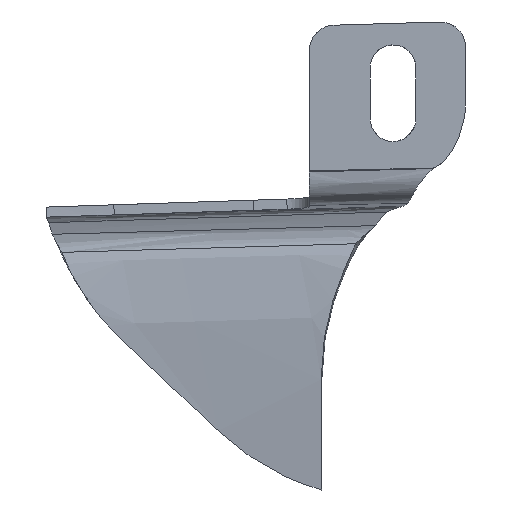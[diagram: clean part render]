
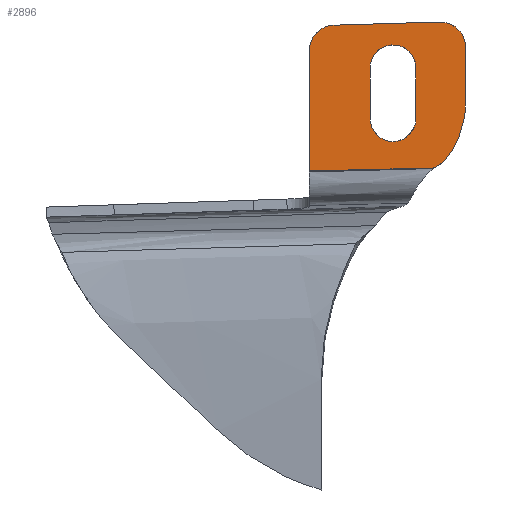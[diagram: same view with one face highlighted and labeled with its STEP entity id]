
A CAD part, front view. The second image highlights one B-rep face of the part: STEP entity #2896.
In plain terms, the highlighted planar face has unit normal (0, -1, 0).
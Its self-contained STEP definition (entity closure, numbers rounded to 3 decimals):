
#2599=CARTESIAN_POINT('Vertex',(-1773.519,267.045,515.227)) ;
#2629=CARTESIAN_POINT('Vertex',(-1748.957,267.047,515.809)) ;
#2633=CARTESIAN_POINT('Control Point',(-1773.519,267.045,515.227)) ;
#2634=CARTESIAN_POINT('Control Point',(-1772.667,267.045,515.247)) ;
#2635=CARTESIAN_POINT('Control Point',(-1771.814,267.045,515.267)) ;
#2636=CARTESIAN_POINT('Control Point',(-1770.898,267.045,515.289)) ;
#2637=CARTESIAN_POINT('Control Point',(-1769.776,267.045,515.316)) ;
#2638=CARTESIAN_POINT('Control Point',(-1768.659,267.045,515.342)) ;
#2639=CARTESIAN_POINT('Control Point',(-1768.321,267.045,515.35)) ;
#2640=CARTESIAN_POINT('Control Point',(-1767.091,267.045,515.38)) ;
#2641=CARTESIAN_POINT('Control Point',(-1765.832,267.045,515.41)) ;
#2642=CARTESIAN_POINT('Control Point',(-1764.827,267.046,515.433)) ;
#2643=CARTESIAN_POINT('Control Point',(-1762.678,267.046,515.484)) ;
#2644=CARTESIAN_POINT('Control Point',(-1760.662,267.046,515.532)) ;
#2645=CARTESIAN_POINT('Control Point',(-1759.61,267.046,515.557)) ;
#2646=CARTESIAN_POINT('Control Point',(-1757.813,267.046,515.6)) ;
#2647=CARTESIAN_POINT('Control Point',(-1756.149,267.046,515.639)) ;
#2648=CARTESIAN_POINT('Control Point',(-1755.41,267.047,515.657)) ;
#2649=CARTESIAN_POINT('Control Point',(-1753.81,267.047,515.694)) ;
#2650=CARTESIAN_POINT('Control Point',(-1752.056,267.047,515.736)) ;
#2651=CARTESIAN_POINT('Control Point',(-1751.075,267.047,515.759)) ;
#2652=CARTESIAN_POINT('Control Point',(-1750.037,267.047,515.783)) ;
#2653=CARTESIAN_POINT('Control Point',(-1748.957,267.047,515.809)) ;
#2702=CARTESIAN_POINT('Vertex',(-1747.068,267.047,517.022)) ;
#2706=CARTESIAN_POINT('Control Point',(-1748.957,267.047,515.809)) ;
#2707=CARTESIAN_POINT('Control Point',(-1748.337,267.047,516.227)) ;
#2708=CARTESIAN_POINT('Control Point',(-1747.707,267.047,516.632)) ;
#2709=CARTESIAN_POINT('Control Point',(-1747.068,267.047,517.022)) ;
#2743=CARTESIAN_POINT('Vertex',(-1742.809,267.048,528.649)) ;
#2747=CARTESIAN_POINT('Control Point',(-1747.068,267.047,517.022)) ;
#2748=CARTESIAN_POINT('Control Point',(-1745.027,267.048,519.434)) ;
#2749=CARTESIAN_POINT('Control Point',(-1743.55,267.048,522.325)) ;
#2750=CARTESIAN_POINT('Control Point',(-1742.809,267.048,525.489)) ;
#2751=CARTESIAN_POINT('Control Point',(-1742.809,267.048,528.649)) ;
#2778=CARTESIAN_POINT('Vertex',(-1742.809,267.049,539.507)) ;
#2781=CARTESIAN_POINT('Line Origine',(-1742.809,267.049,534.078)) ;
#2798=CARTESIAN_POINT('Axis2P3D Location',(-0.021,267.198,-0.019)) ;
#2804=CARTESIAN_POINT('Control Point',(-1742.809,267.049,539.507)) ;
#2805=CARTESIAN_POINT('Control Point',(-1742.809,267.049,541.108)) ;
#2806=CARTESIAN_POINT('Control Point',(-1743.448,267.049,542.711)) ;
#2807=CARTESIAN_POINT('Control Point',(-1744.739,267.049,543.963)) ;
#2808=CARTESIAN_POINT('Control Point',(-1746.36,267.049,544.554)) ;
#2809=CARTESIAN_POINT('Control Point',(-1747.96,267.049,544.505)) ;
#2810=CARTESIAN_POINT('Vertex',(-1747.96,267.049,544.505)) ;
#2814=CARTESIAN_POINT('Control Point',(-1747.96,267.049,544.505)) ;
#2815=CARTESIAN_POINT('Control Point',(-1768.67,267.047,543.88)) ;
#2816=CARTESIAN_POINT('Vertex',(-1768.67,267.047,543.88)) ;
#2820=CARTESIAN_POINT('Control Point',(-1768.67,267.047,543.88)) ;
#2821=CARTESIAN_POINT('Control Point',(-1770.21,267.046,543.833)) ;
#2822=CARTESIAN_POINT('Control Point',(-1771.733,267.046,543.195)) ;
#2823=CARTESIAN_POINT('Control Point',(-1772.928,267.046,541.965)) ;
#2824=CARTESIAN_POINT('Control Point',(-1773.519,267.046,540.423)) ;
#2825=CARTESIAN_POINT('Control Point',(-1773.519,267.046,538.882)) ;
#2826=CARTESIAN_POINT('Vertex',(-1773.519,267.046,538.882)) ;
#2829=CARTESIAN_POINT('Line Origine',(-1773.519,267.045,529.867)) ;
#2844=CARTESIAN_POINT('Line Origine',(-1752.569,267.047,529.867)) ;
#2848=CARTESIAN_POINT('Vertex',(-1752.569,267.048,535.496)) ;
#2850=CARTESIAN_POINT('Vertex',(-1752.569,267.047,525.496)) ;
#2854=CARTESIAN_POINT('Control Point',(-1761.569,267.046,525.496)) ;
#2855=CARTESIAN_POINT('Control Point',(-1761.569,267.046,524.236)) ;
#2856=CARTESIAN_POINT('Control Point',(-1761.129,267.046,522.976)) ;
#2857=CARTESIAN_POINT('Control Point',(-1760.243,267.046,521.925)) ;
#2858=CARTESIAN_POINT('Control Point',(-1758.493,267.046,520.951)) ;
#2859=CARTESIAN_POINT('Control Point',(-1756.574,267.047,520.956)) ;
#2860=CARTESIAN_POINT('Control Point',(-1755.941,267.047,521.07)) ;
#2861=CARTESIAN_POINT('Control Point',(-1754.449,267.047,521.625)) ;
#2862=CARTESIAN_POINT('Control Point',(-1753.302,267.047,522.769)) ;
#2863=CARTESIAN_POINT('Control Point',(-1752.813,267.047,523.621)) ;
#2864=CARTESIAN_POINT('Control Point',(-1752.569,267.047,524.559)) ;
#2865=CARTESIAN_POINT('Control Point',(-1752.569,267.047,525.496)) ;
#2866=CARTESIAN_POINT('Vertex',(-1761.569,267.046,525.496)) ;
#2869=CARTESIAN_POINT('Line Origine',(-1761.569,267.047,529.867)) ;
#2873=CARTESIAN_POINT('Vertex',(-1761.569,267.047,535.496)) ;
#2877=CARTESIAN_POINT('Control Point',(-1761.569,267.047,535.496)) ;
#2878=CARTESIAN_POINT('Control Point',(-1761.569,267.047,536.756)) ;
#2879=CARTESIAN_POINT('Control Point',(-1761.128,267.047,538.015)) ;
#2880=CARTESIAN_POINT('Control Point',(-1760.243,267.047,539.067)) ;
#2881=CARTESIAN_POINT('Control Point',(-1758.493,267.047,540.04)) ;
#2882=CARTESIAN_POINT('Control Point',(-1756.574,267.048,540.036)) ;
#2883=CARTESIAN_POINT('Control Point',(-1755.941,267.048,539.921)) ;
#2884=CARTESIAN_POINT('Control Point',(-1754.449,267.048,539.367)) ;
#2885=CARTESIAN_POINT('Control Point',(-1753.302,267.048,538.223)) ;
#2886=CARTESIAN_POINT('Control Point',(-1752.813,267.048,537.371)) ;
#2887=CARTESIAN_POINT('Control Point',(-1752.569,267.048,536.433)) ;
#2888=CARTESIAN_POINT('Control Point',(-1752.569,267.048,535.496)) ;
#2782=DIRECTION('Vector Direction',(0.,0.,1.)) ;
#2799=DIRECTION('Axis2P3D Direction',(0.,-1.,0.)) ;
#2800=DIRECTION('Axis2P3D XDirection',(1.,0.,0.)) ;
#2830=DIRECTION('Vector Direction',(0.,0.,1.)) ;
#2845=DIRECTION('Vector Direction',(0.,0.,1.)) ;
#2870=DIRECTION('Vector Direction',(0.,0.,1.)) ;
#2801=AXIS2_PLACEMENT_3D('Plane Axis2P3D',#2798,#2799,#2800) ;
#2835=ORIENTED_EDGE('',*,*,#2752,.T.) ;
#2836=ORIENTED_EDGE('',*,*,#2785,.T.) ;
#2837=ORIENTED_EDGE('',*,*,#2812,.F.) ;
#2838=ORIENTED_EDGE('',*,*,#2818,.T.) ;
#2839=ORIENTED_EDGE('',*,*,#2828,.T.) ;
#2840=ORIENTED_EDGE('',*,*,#2833,.T.) ;
#2841=ORIENTED_EDGE('',*,*,#2654,.T.) ;
#2842=ORIENTED_EDGE('',*,*,#2710,.T.) ;
#2891=ORIENTED_EDGE('',*,*,#2852,.T.) ;
#2892=ORIENTED_EDGE('',*,*,#2868,.F.) ;
#2893=ORIENTED_EDGE('',*,*,#2875,.F.) ;
#2894=ORIENTED_EDGE('',*,*,#2889,.T.) ;
#2895=FACE_BOUND('',#2890,.T.) ;
#2783=VECTOR('Line Direction',#2782,1.) ;
#2831=VECTOR('Line Direction',#2830,1.) ;
#2846=VECTOR('Line Direction',#2845,1.) ;
#2871=VECTOR('Line Direction',#2870,1.) ;
#2896=ADVANCED_FACE('Hauptk\X2\00F6\X0\rper',(#2843,#2895),#2802,.T.) ;
#2632=B_SPLINE_CURVE_WITH_KNOTS('',5,(#2633,#2634,#2635,#2636,#2637,#2638,#2639,#2640,#2641,#2642,#2643,#2644,#2645,#2646,#2647,#2648,#2649,#2650,#2651,#2652,#2653),.UNSPECIFIED.,.F.,.U.,(6,3,3,3,3,3,6),(0.,6.009,7.943,14.685,23.084,29.956,37.59),.UNSPECIFIED.) ;
#2705=B_SPLINE_CURVE_WITH_KNOTS('',3,(#2706,#2707,#2708,#2709),.UNSPECIFIED.,.F.,.U.,(4,4),(0.,3.888),.UNSPECIFIED.) ;
#2746=B_SPLINE_CURVE_WITH_KNOTS('',4,(#2747,#2748,#2749,#2750,#2751),.UNSPECIFIED.,.F.,.U.,(5,5),(0.,21.893),.UNSPECIFIED.) ;
#2803=B_SPLINE_CURVE_WITH_KNOTS('',5,(#2804,#2805,#2806,#2807,#2808,#2809),.UNSPECIFIED.,.F.,.U.,(6,6),(0.,8.005),.UNSPECIFIED.) ;
#2813=B_SPLINE_CURVE_WITH_KNOTS('',1,(#2814,#2815),.UNSPECIFIED.,.F.,.U.,(2,2),(-10.36,10.36),.UNSPECIFIED.) ;
#2819=B_SPLINE_CURVE_WITH_KNOTS('',5,(#2820,#2821,#2822,#2823,#2824,#2825),.UNSPECIFIED.,.F.,.U.,(6,6),(8.005,15.708),.UNSPECIFIED.) ;
#2853=B_SPLINE_CURVE_WITH_KNOTS('',5,(#2854,#2855,#2856,#2857,#2858,#2859,#2860,#2861,#2862,#2863,#2864,#2865),.UNSPECIFIED.,.F.,.U.,(6,3,3,6),(0.,10.91,16.369,24.486),.UNSPECIFIED.) ;
#2876=B_SPLINE_CURVE_WITH_KNOTS('',5,(#2877,#2878,#2879,#2880,#2881,#2882,#2883,#2884,#2885,#2886,#2887,#2888),.UNSPECIFIED.,.F.,.U.,(6,3,3,6),(0.,10.91,16.369,24.486),.UNSPECIFIED.) ;
#2654=EDGE_CURVE('',#2600,#2630,#2632,.T.) ;
#2710=EDGE_CURVE('',#2630,#2703,#2705,.T.) ;
#2752=EDGE_CURVE('',#2703,#2744,#2746,.T.) ;
#2785=EDGE_CURVE('',#2744,#2779,#2784,.T.) ;
#2812=EDGE_CURVE('',#2811,#2779,#2803,.F.) ;
#2818=EDGE_CURVE('',#2811,#2817,#2813,.T.) ;
#2828=EDGE_CURVE('',#2817,#2827,#2819,.T.) ;
#2833=EDGE_CURVE('',#2827,#2600,#2832,.F.) ;
#2852=EDGE_CURVE('',#2849,#2851,#2847,.F.) ;
#2868=EDGE_CURVE('',#2867,#2851,#2853,.T.) ;
#2875=EDGE_CURVE('',#2874,#2867,#2872,.F.) ;
#2889=EDGE_CURVE('',#2874,#2849,#2876,.T.) ;
#2834=EDGE_LOOP('',(#2835,#2836,#2837,#2838,#2839,#2840,#2841,#2842)) ;
#2890=EDGE_LOOP('',(#2891,#2892,#2893,#2894)) ;
#2843=FACE_OUTER_BOUND('',#2834,.T.) ;
#2784=LINE('Line',#2781,#2783) ;
#2832=LINE('Line',#2829,#2831) ;
#2847=LINE('Line',#2844,#2846) ;
#2872=LINE('Line',#2869,#2871) ;
#2802=PLANE('Plane',#2801) ;
#2600=VERTEX_POINT('',#2599) ;
#2630=VERTEX_POINT('',#2629) ;
#2703=VERTEX_POINT('',#2702) ;
#2744=VERTEX_POINT('',#2743) ;
#2779=VERTEX_POINT('',#2778) ;
#2811=VERTEX_POINT('',#2810) ;
#2817=VERTEX_POINT('',#2816) ;
#2827=VERTEX_POINT('',#2826) ;
#2849=VERTEX_POINT('',#2848) ;
#2851=VERTEX_POINT('',#2850) ;
#2867=VERTEX_POINT('',#2866) ;
#2874=VERTEX_POINT('',#2873) ;
